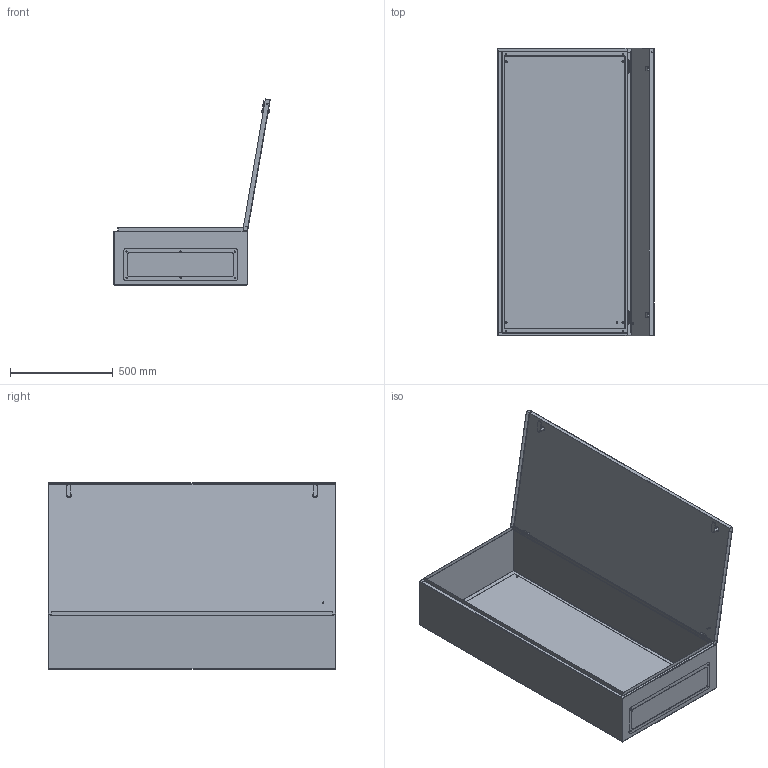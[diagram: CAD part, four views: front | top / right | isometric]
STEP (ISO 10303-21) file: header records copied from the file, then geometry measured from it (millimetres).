
FILE_DESCRIPTION (( 'STEP AP214' ), '1' );
FILE_NAME ('ﾙﾌﾏ07.STEP', '2020-03-12T10:58:40', ( '' ), ( '' ), 'SwSTEP 2.0', 'SolidWorks 2018', '' );
FILE_SCHEMA (( 'AUTOMOTIVE_DESIGN' ));
Length unit declared in the file: millimetre
Products named in the file (11): ﾙﾌﾏ07; 相礤朦_觐痫篑_忮瘐07; Ïåòëÿ_Äâåðè_P54; 扻豵鵨07; ïåòëÿ_êîïðóñà_IP54; Ïàíåëü_Ââîäà04; 沓艜_眈翴錪07; 拟屦黖IP54_07; ﾇ瑟鶴; Ïàíåëü_êîðïóñ_íèæ07; Ãàéêà_Ì6
Assembly tree (16 placements, depth 2):
  ﾙﾌﾏ07
    扻豵鵨07
    相礤朦_觐痫篑_忮瘐07
    Ïàíåëü_êîðïóñ_íèæ07
    沓艜_眈翴錪07
    拟屦黖IP54_07
    ïåòëÿ_êîïðóñà_IP54  x2
    Ïåòëÿ_Äâåðè_P54  x2
    Ãàéêà_Ì6  x4
    ﾇ瑟鶴  x2
    Ïàíåëü_Ââîäà04
Bounding box: 761.07 x 1400 x 906.79 mm (x, y, z)
Volume: 4786109.3 mm3; surface area: 7962373.3 mm2
Topology: 16 solids, 16 shells, 565 faces, 1318 edges, 798 vertices
Faces by surface type: plane 315, cylinder 184, cone 50, bspline 16
Entity records: 13511 total; most frequent: CARTESIAN_POINT 3063, DIRECTION 2071, ORIENTED_EDGE 1978, EDGE_CURVE 989, AXIS2_PLACEMENT_3D 716, VECTOR 639, LINE 639, VERTEX_POINT 596
